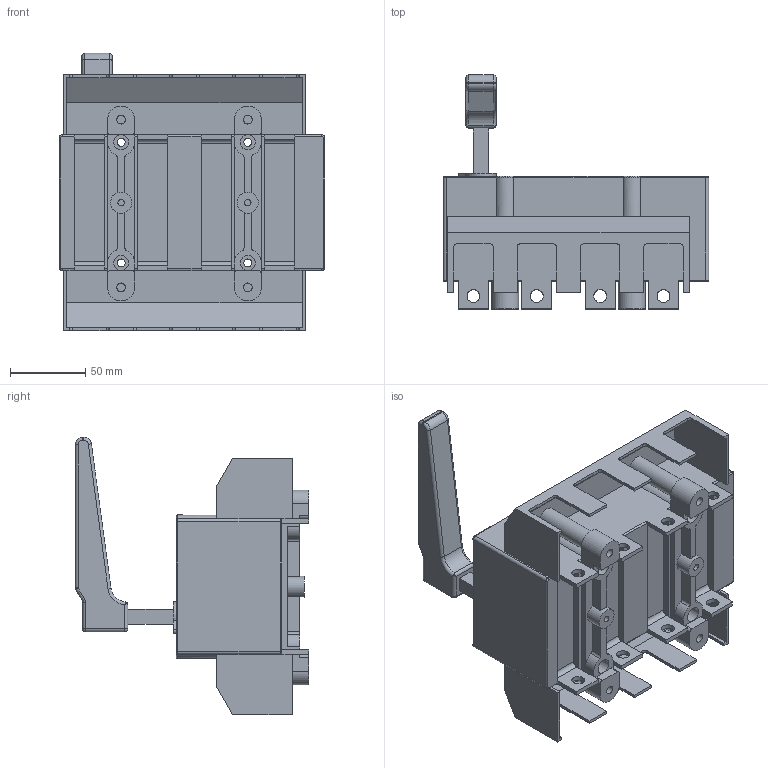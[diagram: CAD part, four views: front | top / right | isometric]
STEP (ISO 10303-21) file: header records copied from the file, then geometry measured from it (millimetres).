
FILE_DESCRIPTION(/* description */ (''),/* implementation_level */ '2;1');
FILE_NAME(/* name */ 'RA160 P3 NC-R z oslona zaciskow.stp',/* time_stamp */ '2021-08-17T14:53:22+02:00',/* author */ (''),/* organization */ (''),/* preprocessor_version */ 'ST-DEVELOPER v18.1',/* originating_system */ 'SIEMENS PLM Software NX 1965',/* authorisation */ '');
FILE_SCHEMA (('AUTOMOTIVE_DESIGN { 1 0 10303 214 3 1 1 1 }'));
Length unit declared in the file: millimetre
Products named in the file (1): RA160 P3 NC-R z oslona zaciskow_stp
Bounding box: 176 x 155 x 183.9 mm (x, y, z)
Volume: 1252248.2 mm3; surface area: 169782.5 mm2
Topology: 1 solids, 1 shells, 366 faces, 1023 edges, 652 vertices
Faces by surface type: plane 186, cylinder 154, torus 15, sphere 6, bspline 5
Full cylindrical faces by diameter (mm): 4.3 x2, 5.3 x4, 5.8 x4, 8.5 x8, 10 x12, 13 x4, 14 x2
Entity records: 11606 total; most frequent: CARTESIAN_POINT 2157, DIRECTION 2003, ORIENTED_EDGE 1922, EDGE_CURVE 961, AXIS2_PLACEMENT_3D 702, VERTEX_POINT 632, LINE 599, VECTOR 599
